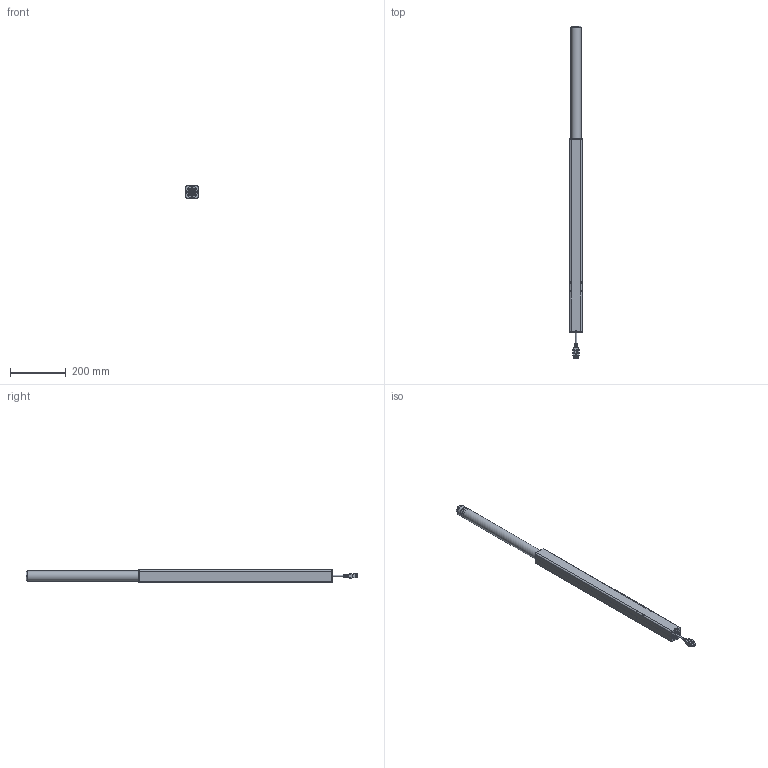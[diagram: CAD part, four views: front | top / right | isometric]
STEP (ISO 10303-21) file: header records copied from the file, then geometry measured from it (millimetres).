
FILE_DESCRIPTION(/* description */ ('Unknown'),/* implementation_level */ '2;1');
FILE_NAME(/* name */ '904.01004_00-Ausgefahren',/* time_stamp */ '2022-02-02T10:40:27+01:00',/* author */ ('Unknown'),/* organization */ ('Unknown'),/* preprocessor_version */ 'ST-DEVELOPER v18.1',/* originating_system */ 'Solid Edge',/* authorisation */ 'Unknown');
FILE_SCHEMA (('FEATURE_BASED_PROCESS_PLANNING','TECHNICAL_DATA_PACKAGING','AUTOMOTIVE_DESIGN {1 0 10303 214 3 1 1}'));
Products named in the file (9): 904.01004; 119.00471; 123.00116; 125.00272; 128.00015; 128.00026; 142.00239; 142.00275; Kabel Molex_kurz
Assembly tree (13 placements, depth 2):
  904.01004
    119.00471
    123.00116
    125.00272
    128.00015
    128.00026  x2
    142.00239  x4
    142.00275  x2
    Kabel Molex_kurz
Bounding box: 45 x 1191.5 x 45 mm (x, y, z)
Volume: 701507 mm3; surface area: 355386.6 mm2
Topology: 13 solids, 13 shells, 3177 faces, 8620 edges, 5549 vertices
Faces by surface type: plane 1922, cylinder 768, bspline 206, torus 129, sphere 78, cone 74
Full cylindrical faces by diameter (mm): 1.25 x2, 2.459 x2, 2.6 x2, 3 x2, 4 x12, 4.917 x6, 5 x1, 6.647 x1, 8.376 x2, 28.3 x1, 30 x1, 31.8 x3, 32 x2, 36 x2, 39 x1, 44 x1
Entity records: 64556 total; most frequent: CARTESIAN_POINT 14974, ORIENTED_EDGE 9750, DIRECTION 9116, EDGE_CURVE 4875, LINE 3300, VECTOR 3300, VERTEX_POINT 3188, AXIS2_PLACEMENT_3D 2908
